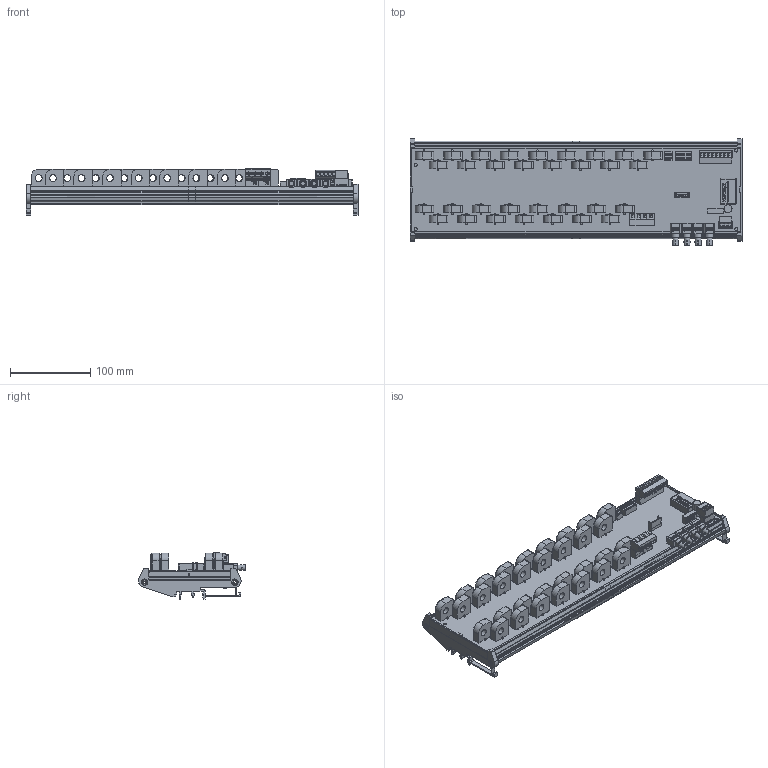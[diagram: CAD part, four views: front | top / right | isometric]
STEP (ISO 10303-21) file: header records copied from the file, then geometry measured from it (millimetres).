
FILE_DESCRIPTION(('FreeCAD Model'),'2;1');
FILE_NAME('C:/3D Files/Stringhe/ST0HS/ST0HS32xx DR/ST0HS32xx DR.step', '2026-01-08T11:51:16',('Author'),(''), 'Open CASCADE STEP processor 7.3','FreeCAD','Unknown');
FILE_SCHEMA(('AUTOMOTIVE_DESIGN { 1 0 10303 214 1 1 1 1 }'));
Length unit declared in the file: millimetre
Products named in the file (52): ST0HS32xx_DR; AmpModu_6P_M; DipSwitch8; DipSwitch4; IB2405LS-1W; WRB2403ZP-6WR003; ELNA_470_uF_35_V; Mstb_03P_F; Mstb_03Pc_M; SH04-7,62; PV02-7,62-V-Pa; PV02-7,62-V-Pb; Mstb_8P_F; Mstb_8Pc_M; CHK-LSP5S2L-BP-CH_01; CHK-LSP5S2L-BP-CH_02; CHK-LSP5S2L-BP-CH_03; CHK-LSP5S2L-BP-CH_04; CHK-LSP5S2L-BP-CH_05; CHK-LSP5S2L-BP-CH_06; CHK-LSP5S2L-BP-CH_07; CHK-LSP5S2L-BP-CH_08; CHK-LSP5S2L-BP-CH_09; CHK-LSP5S2L-BP-CH_10; CHK-LSP5S2L-BP-CH_11; CHK-LSP5S2L-BP-CH_12; CHK-LSP5S2L-BP-CH_13; CHK-LSP5S2L-BP-CH_14; CHK-LSP5S2L-BP-CH_15; CHK-LSP5S2L-BP-CH_16; CHK-LSP5S2L-BP-CH_17; CHK-LSP5S2L-BP-CH_18; CHK-LSP5S2L-BP-CH_19; CHK-LSP5S2L-BP-CH_20; CHK-LSP5S2L-BP-CH_21; CHK-LSP5S2L-BP-CH_22; CHK-LSP5S2L-BP-CH_23; CHK-LSP5S2L-BP-CH_24; CHK-LSP5S2L-BP-CH_025; CHK-LSP5S2L-BP-CH_026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
Assembly tree (51 placements, depth 2):
  ST0HS32xx_DR
    AmpModu_6P_M
    DipSwitch8
    DipSwitch4
    IB2405LS-1W
    WRB2403ZP-6WR003
    ELNA_470_uF_35_V
    Mstb_03P_F
    Mstb_03Pc_M
    SH04-7,62
    PV02-7,62-V-Pa
    PV02-7,62-V-Pb
    Mstb_8P_F
    Mstb_8Pc_M
    CHK-LSP5S2L-BP-CH_01
    CHK-LSP5S2L-BP-CH_02
    CHK-LSP5S2L-BP-CH_03
    CHK-LSP5S2L-BP-CH_04
    CHK-LSP5S2L-BP-CH_05
    CHK-LSP5S2L-BP-CH_06
    CHK-LSP5S2L-BP-CH_07
    CHK-LSP5S2L-BP-CH_08
    CHK-LSP5S2L-BP-CH_09
    CHK-LSP5S2L-BP-CH_10
    CHK-LSP5S2L-BP-CH_11
    CHK-LSP5S2L-BP-CH_12
    CHK-LSP5S2L-BP-CH_13
    CHK-LSP5S2L-BP-CH_14
    CHK-LSP5S2L-BP-CH_15
    CHK-LSP5S2L-BP-CH_16
    CHK-LSP5S2L-BP-CH_17
    CHK-LSP5S2L-BP-CH_18
    CHK-LSP5S2L-BP-CH_19
    CHK-LSP5S2L-BP-CH_20
    CHK-LSP5S2L-BP-CH_21
    CHK-LSP5S2L-BP-CH_22
    CHK-LSP5S2L-BP-CH_23
    CHK-LSP5S2L-BP-CH_24
    CHK-LSP5S2L-BP-CH_025
    CHK-LSP5S2L-BP-CH_026
    CHK-LSP5S2L-BP-CH_027
    CHK-LSP5S2L-BP-CH_028
    CHK-LSP5S2L-BP-CH_029
    CHK-LSP5S2L-BP-CH_030
    CHK-LSP5S2L-BP-CH_031
    CHK-LSP5S2L-BP-CH_032
    Profilo_413x128
    Stampato_409_x_108
    HFBR-x41xTZ001
    HFBR-x41xTZ002
    HFBR-x41xTZ003
    HFBR-x41xTZ004
Bounding box: 413 x 133.07 x 57.69 mm (x, y, z)
Volume: 391063.5 mm3; surface area: 391005.6 mm2
Topology: 111 solids, 230 shells, 9043 faces, 28040 edges, 27570 vertices
Faces by surface type: plane 6680, cylinder 1535, bspline 504, torus 264, cone 41, sphere 16, extrusion 3
Full cylindrical faces by diameter (mm): 0.5 x36, 0.75 x36, 1 x18, 1.5 x8, 1.6 x7, 3.8 x4, 4 x19, 4.3 x2, 5.6 x4, 7.1 x4, 7.9 x4, 10 x1
Entity records: 693793 total; most frequent: CARTESIAN_POINT 174125, DIRECTION 88869, VECTOR 62259, LINE 62256, ORIENTED_EDGE 48889, PCURVE 48889, DEFINITIONAL_REPRESENTATION 48889, EDGE_CURVE 25331
